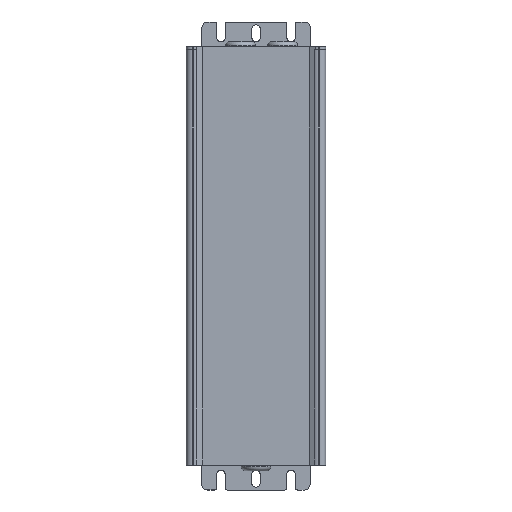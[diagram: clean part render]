
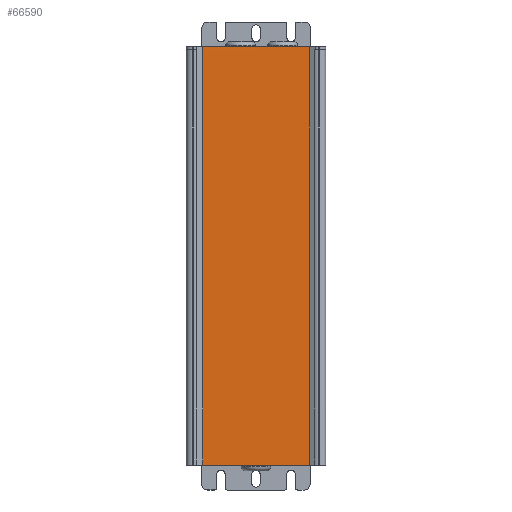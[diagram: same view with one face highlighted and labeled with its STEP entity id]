
A CAD part, left-side view. The second image highlights one B-rep face of the part: STEP entity #66590.
In plain terms, the highlighted planar face has unit normal (-1, 0, 0) as drawn and (0, 1, 0) by its records, which use the part's own axes.
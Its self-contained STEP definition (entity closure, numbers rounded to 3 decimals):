
#3590=CARTESIAN_POINT('',(2003.285,-2415.053,
14.6));
#3600=VERTEX_POINT('',#3590);
#3630=CARTESIAN_POINT('',(1951.285,-2415.053,
14.6));
#3640=DIRECTION('',(1.,0.,0.));
#3650=VECTOR('',#3640,1.);
#3660=LINE('',#3630,#3650);
#3670=CARTESIAN_POINT('',(1951.285,-2415.053,
14.6));
#3680=VERTEX_POINT('',#3670);
#3690=EDGE_CURVE('',#3680,#3600,#3660,.T.);
#21910=CARTESIAN_POINT('',(1951.235,-2415.053,
218.6));
#21920=VERTEX_POINT('',#21910);
#21950=CARTESIAN_POINT('',(2003.235,-2415.053,
218.6));
#21960=DIRECTION('',(-1.,0.,0.));
#21970=VECTOR('',#21960,1.);
#21980=LINE('',#21950,#21970);
#21990=CARTESIAN_POINT('',(2003.247,-2415.075,
218.6));
#22000=VERTEX_POINT('',#21990);
#22010=EDGE_CURVE('',#22000,#21920,#21980,.T.);
#65820=CARTESIAN_POINT('',(1951.285,-2415.053,15.));
#65830=DIRECTION('',(0.,1.,0.));
#65840=DIRECTION('',(1.,0.,0.));
#65850=AXIS2_PLACEMENT_3D('',#65820,#65830,#65840);
#65860=PLANE('',#65850);
#65870=ORIENTED_EDGE('',*,*,#3690,.F.);
#65880=CARTESIAN_POINT('',(2003.285,-2415.053,
14.6));
#65890=DIRECTION('',(0.,0.,
1.));
#65900=VECTOR('',#65890,1.);
#65910=LINE('',#65880,#65900);
#65920=CARTESIAN_POINT('',(2003.285,-2415.053,16.2));
#65930=VERTEX_POINT('',#65920);
#65940=EDGE_CURVE('',#3600,#65930,#65910,.T.);
#65950=ORIENTED_EDGE('',*,*,#65940,.F.);
#65960=CARTESIAN_POINT('',(2003.285,-2415.053,16.2));
#65970=DIRECTION('',(0.,0.,1.));
#65980=VECTOR('',#65970,1.);
#65990=LINE('',#65960,#65980);
#66000=CARTESIAN_POINT('',(2003.285,-2415.053,
30.769));
#66010=VERTEX_POINT('',#66000);
#66020=EDGE_CURVE('',#65930,#66010,#65990,.T.);
#66030=ORIENTED_EDGE('',*,*,#66020,.F.);
#66040=CARTESIAN_POINT('',(2003.285,-2415.053,0.));
#66050=DIRECTION('',(0.,0.,-1.));
#66060=VECTOR('',#66050,1.);
#66070=LINE('',#66040,#66060);
#66080=CARTESIAN_POINT('',(2003.285,-2415.053,
46.969));
#66090=VERTEX_POINT('',#66080);
#66100=EDGE_CURVE('',#66090,#66010,#66070,.T.);
#66110=ORIENTED_EDGE('',*,*,#66100,.T.);
#66120=CARTESIAN_POINT('',(2003.285,-2415.053,0.));
#66130=DIRECTION('',(0.,0.,1.));
#66140=VECTOR('',#66130,1.);
#66150=LINE('',#66120,#66140);
#66160=CARTESIAN_POINT('',(2003.285,-2415.053,
217.));
#66170=VERTEX_POINT('',#66160);
#66180=EDGE_CURVE('',#66090,#66170,#66150,.T.);
#66190=ORIENTED_EDGE('',*,*,#66180,.F.);
#66200=CARTESIAN_POINT('',(2003.285,-2415.053,
217.));
#66210=DIRECTION('',(-0.866,-0.5,0.));
#66220=VECTOR('',#66210,1.);
#66230=LINE('',#66200,#66220);
#66240=CARTESIAN_POINT('',(2003.241,-2415.053,
217.));
#66250=VERTEX_POINT('',#66240);
#66260=EDGE_CURVE('',#66170,#66250,#66230,.T.);
#66270=ORIENTED_EDGE('',*,*,#66260,.F.);
#66280=CARTESIAN_POINT('',(2003.235,-2415.053,
218.6));
#66290=DIRECTION('',(0.,0.,-1.));
#66300=VECTOR('',#66290,1.);
#66310=LINE('',#66280,#66300);
#66320=EDGE_CURVE('',#22000,#66250,#66310,.T.);
#66330=ORIENTED_EDGE('',*,*,#66320,.T.);
#66340=ORIENTED_EDGE('',*,*,#22010,.F.);
#66350=CARTESIAN_POINT('',(1951.247,-2415.032,
218.6));
#66360=DIRECTION('',(0.,0.,-1.));
#66370=VECTOR('',#66360,1.);
#66380=LINE('',#66350,#66370);
#66390=CARTESIAN_POINT('',(1951.247,-2415.032,217.));
#66400=VERTEX_POINT('',#66390);
#66410=EDGE_CURVE('',#21920,#66400,#66380,.T.);
#66420=ORIENTED_EDGE('',*,*,#66410,.F.);
#66430=CARTESIAN_POINT('',(1951.247,-2415.032,217.));
#66440=DIRECTION('',(0.866,-0.5,0.));
#66450=VECTOR('',#66440,1.);
#66460=LINE('',#66430,#66450);
#66470=CARTESIAN_POINT('',(1951.285,-2415.053,217.));
#66480=VERTEX_POINT('',#66470);
#66490=EDGE_CURVE('',#66400,#66480,#66460,.T.);
#66500=ORIENTED_EDGE('',*,*,#66490,.F.);
#66510=CARTESIAN_POINT('',(1951.285,-2415.053,-1.6));
#66520=DIRECTION('',(0.,0.,1.));
#66530=VECTOR('',#66520,1.);
#66540=LINE('',#66510,#66530);
#66550=EDGE_CURVE('',#3680,#66480,#66540,.T.);
#66560=ORIENTED_EDGE('',*,*,#66550,.T.);
#66570=EDGE_LOOP('',(#66560,#66500,#66420,#66340,#66330,#66270,#66190,
#66110,#66030,#65950,#65870));
#66580=FACE_OUTER_BOUND('',#66570,.T.);
#66590=ADVANCED_FACE('',(#66580),#65860,.T.);
